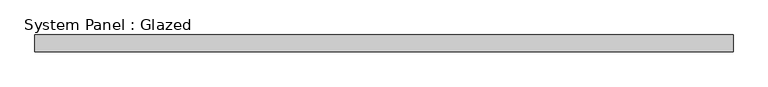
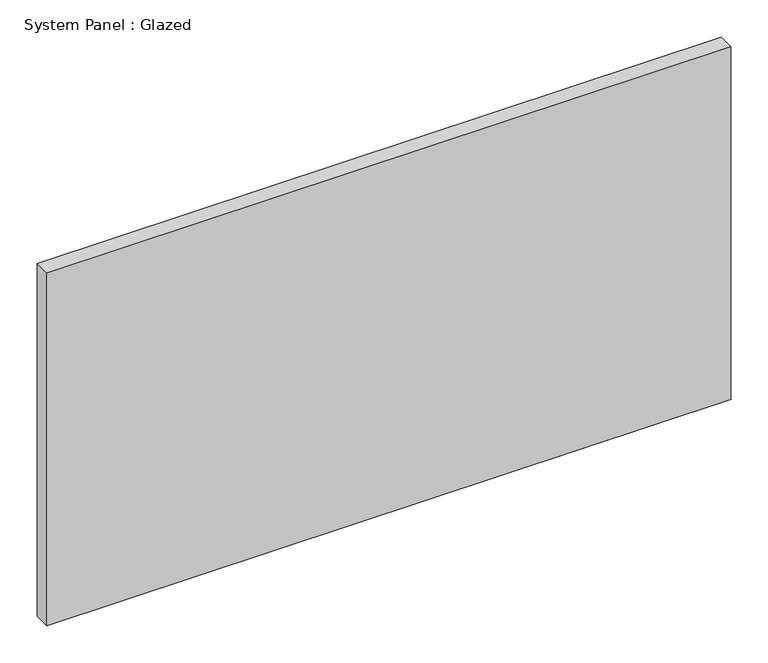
"""IFC4 building model written with IfcOpenShell, lengths in millimetres: plate geometry, System Panel : Glazed."""

from ifc_helpers import new_model, si_unit, origin, origin_with_axes, place, context, project, spatial, polyline, outline, extrude, source, transform, mapped, element, save


def system_panel_glazed_dff80833(model_context):
    return source(origin(), model_context, "Body", "SweptSolid", [
        extrude(outline(polyline([(529.5446429, 19.05), (-529.5446429, 19.05), (-529.5446429, 44.45), (529.5446429, 44.45), (529.5446429, 19.05)])), origin_with_axes(), (0.0, 0.0, 1.0), 577.85),
    ])


if __name__ == "__main__":
    model = new_model("IFC4")
    model_context = context("Model", 3, world=origin())
    ifc_project = project(units=[si_unit("LENGTHUNIT", "METRE", prefix="MILLI")], contexts=[model_context])
    site = spatial("IfcSite", under=ifc_project)
    building = spatial("IfcBuilding", under=site)
    placement = place(None, origin())
    system_panel_glazed_shape = system_panel_glazed_dff80833(model_context)
    element("IfcPlate", 1, ObjectType="System Panel : Glazed", at=placement, inside=building, context=model_context, shape_type="MappedRepresentation", body=[
        mapped(system_panel_glazed_shape, transform((0.0, 0.0, 0.0), x_axis=(1.0, 0.0, 0.0), y_axis=(0.0, 1.0, 0.0), z_axis=(0.0, 0.0, 1.0))),
    ])
    save(model, "model.ifc")
